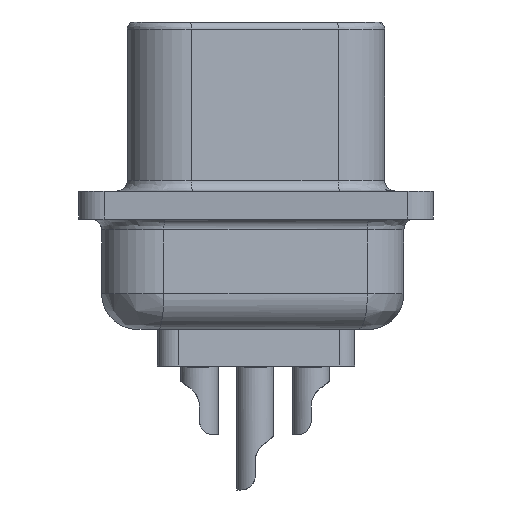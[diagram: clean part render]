
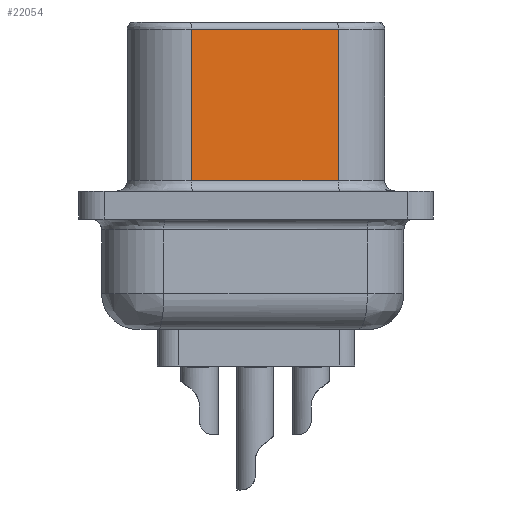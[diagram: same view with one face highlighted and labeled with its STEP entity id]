
A CAD part, left-side view. The second image highlights one B-rep face of the part: STEP entity #22054.
In plain terms, the highlighted planar face has unit normal (-0.987, -0.159, 0).
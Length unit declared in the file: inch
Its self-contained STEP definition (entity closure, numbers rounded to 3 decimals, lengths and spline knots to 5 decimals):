
#1123 = ORIENTED_EDGE ( 'NONE', *, *, #47497, .F. ) ;
#1781 = CARTESIAN_POINT ( 'NONE',  ( 0.25869, 0.33726, 0.015 ) ) ;
#1849 = CARTESIAN_POINT ( 'NONE',  ( 0.25869, 0.33726, 0.236 ) ) ;
#2082 = VERTEX_POINT ( 'NONE', #25995 ) ;
#2336 = LINE ( 'NONE', #1849, #17591 ) ;
#2807 = ORIENTED_EDGE ( 'NONE', *, *, #22400, .F. ) ;
#3239 = VECTOR ( 'NONE', #41529, 39.37008 ) ;
#5603 = VECTOR ( 'NONE', #47140, 39.37008 ) ;
#5939 = CARTESIAN_POINT ( 'NONE',  ( 0.29169, 0.13226, 0.226 ) ) ;
#8110 = VERTEX_POINT ( 'NONE', #1781 ) ;
#10570 = CARTESIAN_POINT ( 'NONE',  ( 0.29169, 0.13226, 0.236 ) ) ;
#10991 = LINE ( 'NONE', #39912, #32404 ) ;
#13999 = LINE ( 'NONE', #5939, #5603 ) ;
#14487 = PLANE ( 'NONE',  #27717 ) ;
#15576 = VERTEX_POINT ( 'NONE', #34032 ) ;
#17591 = VECTOR ( 'NONE', #20248, 39.37008 ) ;
#20248 = DIRECTION ( 'NONE',  ( 0., 0., 1. ) ) ;
#21293 = DIRECTION ( 'NONE',  ( -0.159, 0.987, 0. ) ) ;
#22054 = ADVANCED_FACE ( 'NONE', ( #40216 ), #14487, .F. ) ;
#22400 = EDGE_CURVE ( 'NONE', #30577, #8110, #10991, .T. ) ;
#25269 = DIRECTION ( 'NONE',  ( -0.159, 0.987, 0. ) ) ;
#25995 = CARTESIAN_POINT ( 'NONE',  ( 0.25869, 0.33726, 0.226 ) ) ;
#27717 = AXIS2_PLACEMENT_3D ( 'NONE', #10570, #29921, #25269 ) ;
#29811 = CARTESIAN_POINT ( 'NONE',  ( 0.29169, 0.13226, 0.015 ) ) ;
#29921 = DIRECTION ( 'NONE',  ( 0.987, 0.159, 0. ) ) ;
#30577 = VERTEX_POINT ( 'NONE', #29811 ) ;
#31927 = EDGE_CURVE ( 'NONE', #2082, #15576, #13999, .T. ) ;
#32404 = VECTOR ( 'NONE', #21293, 39.37008 ) ;
#34032 = CARTESIAN_POINT ( 'NONE',  ( 0.29169, 0.13226, 0.226 ) ) ;
#39912 = CARTESIAN_POINT ( 'NONE',  ( 0.29169, 0.13226, 0.015 ) ) ;
#40216 = FACE_OUTER_BOUND ( 'NONE', #42169, .T. ) ;
#40453 = EDGE_CURVE ( 'NONE', #15576, #30577, #45228, .T. ) ;
#41529 = DIRECTION ( 'NONE',  ( 0., 0., -1. ) ) ;
#42169 = EDGE_LOOP ( 'NONE', ( #2807, #46748, #46694, #1123 ) ) ;
#45228 = LINE ( 'NONE', #45719, #3239 ) ;
#45719 = CARTESIAN_POINT ( 'NONE',  ( 0.29169, 0.13226, 0.236 ) ) ;
#46694 = ORIENTED_EDGE ( 'NONE', *, *, #31927, .F. ) ;
#46748 = ORIENTED_EDGE ( 'NONE', *, *, #40453, .F. ) ;
#47140 = DIRECTION ( 'NONE',  ( 0.159, -0.987, 0. ) ) ;
#47497 = EDGE_CURVE ( 'NONE', #8110, #2082, #2336, .T. ) ;
